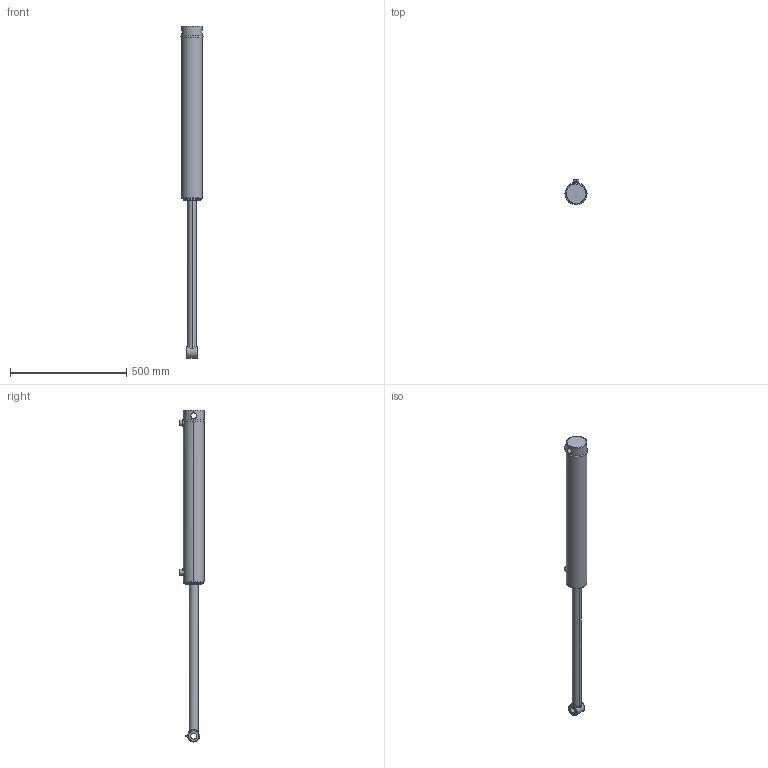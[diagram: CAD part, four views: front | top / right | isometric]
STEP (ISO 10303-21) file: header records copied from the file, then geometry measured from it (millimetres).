
FILE_DESCRIPTION (( 'STEP AP203' ), '1' );
FILE_NAME ('SB-C3001550x610 (24) extended.STEP', '2014-11-19T21:43:57', ( '' ), ( '' ), 'SwSTEP 2.0', 'SolidWorks 2014', '' );
FILE_SCHEMA (( 'CONFIG_CONTROL_DESIGN' ));
Length unit declared in the file: millimetre
Products named in the file (7): 24 SPARE; 18 NPT GREASE NIPPLE; SPARE 24; SB-C300150x610 (24) BODY; SB-C3001550x610 (24) extended; 3 inch circlip; SB-C3001550x610 (24) body
Assembly tree (6 placements, depth 3):
  SB-C3001550x610 (24) extended
    SB-C3001550x610 (24) body
      SB-C300150x610 (24) BODY
      3 inch circlip
    SPARE 24
      24 SPARE
      18 NPT GREASE NIPPLE
Bounding box: 94.87 x 109.89 x 1428.4 mm (x, y, z)
Volume: 5182276.5 mm3; surface area: 366066.9 mm2
Topology: 4 solids, 4 shells, 133 faces, 306 edges, 190 vertices
Faces by surface type: cylinder 51, plane 29, cone 22, bspline 18, torus 11, sphere 2
Entity records: 10452 total; most frequent: CARTESIAN_POINT 6772, DIRECTION 638, ORIENTED_EDGE 604, EDGE_CURVE 302, AXIS2_PLACEMENT_3D 270, VERTEX_POINT 190, EDGE_LOOP 158, CIRCLE 144
